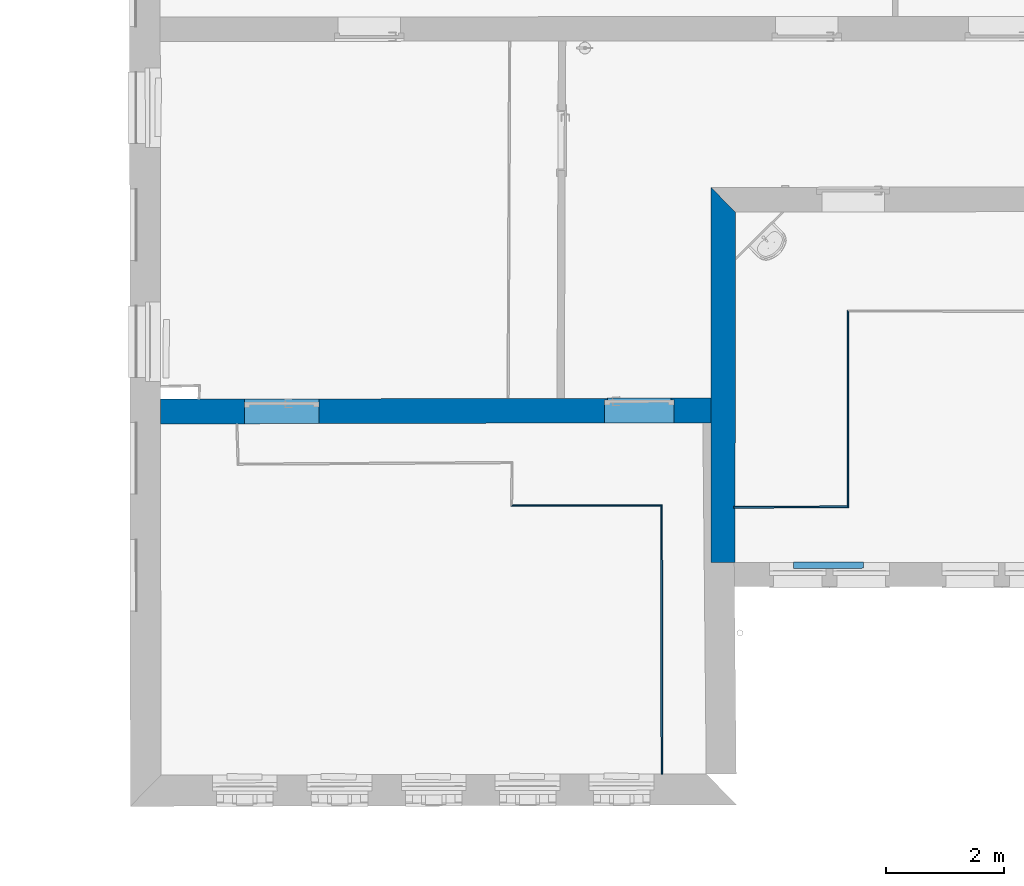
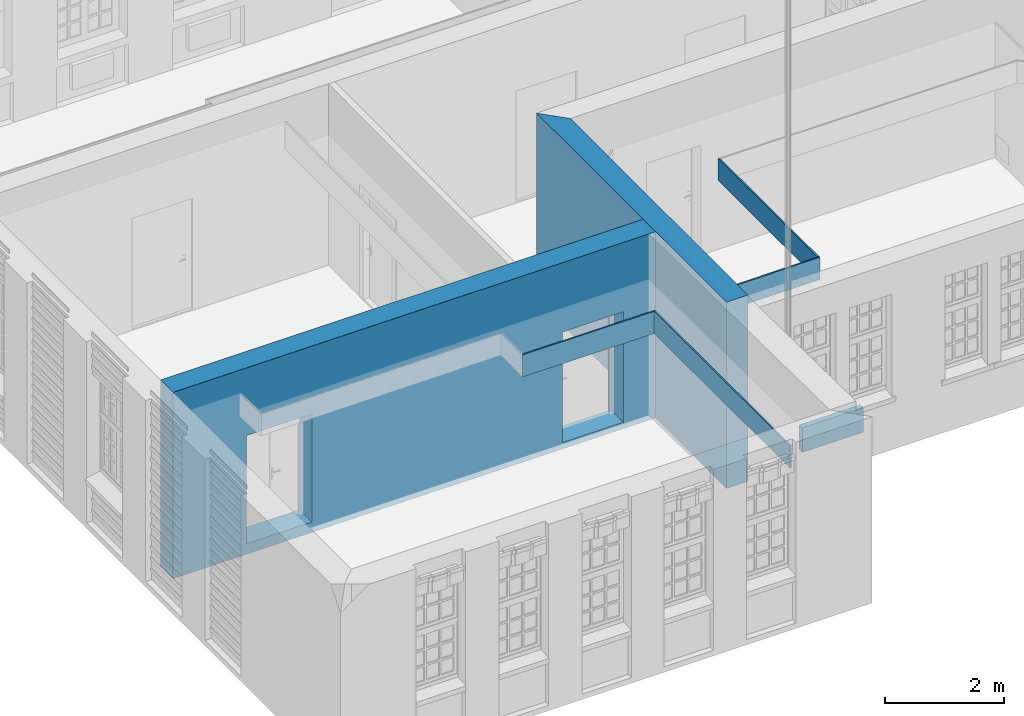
# One storey, part 18 of 158: 7 walls, 2 openings.
"""IFC2X3 building model written with IfcOpenShell, lengths in metres."""

from ifc_helpers import new_model, entity, si_unit, converted_unit, derived_unit, money_unit, direction, frame, origin_with_axes, origin_2d_with_axis, place, context, subcontext, project, spatial, polyline, rectangle, outline, extrude, material, layer, layer_set, layer_usage, type_object, element, save


model = new_model("IFC2X3")

# Units and contexts
model_context = context("Model", 3, precision=1e-05, world=origin_with_axes(), true_north=direction((0.0, 1.0)))
body_context = subcontext(model_context, "Body", "Model", "MODEL_VIEW")
ifc_project = project(units=[si_unit("LENGTHUNIT", "METRE"), si_unit("AREAUNIT", "SQUARE_METRE"), si_unit("VOLUMEUNIT", "CUBIC_METRE"), converted_unit("PLANEANGLEUNIT", "DEGREE", entity("IfcPlaneAngleMeasure", 0.0174532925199), si_unit("PLANEANGLEUNIT", "RADIAN"), dimensions=[0, 0, 0, 0, 0, 0, 0]), money_unit("EUR"), converted_unit("TIMEUNIT", "Year", entity("IfcTimeMeasure", 31556926.0), si_unit("TIMEUNIT", "SECOND"), dimensions=[0, 0, 1, 0, 0, 0, 0]), si_unit("MASSUNIT", "GRAM", prefix="KILO"), si_unit("THERMODYNAMICTEMPERATUREUNIT", "DEGREE_CELSIUS"), si_unit("LUMINOUSINTENSITYUNIT", "LUMEN"), si_unit("ENERGYUNIT", "JOULE", prefix="MEGA"), derived_unit("THERMALCONDUCTANCEUNIT", [(si_unit("POWERUNIT", "WATT"), 1), (si_unit("LENGTHUNIT", "METRE"), -1), (si_unit("THERMODYNAMICTEMPERATUREUNIT", "KELVIN"), -1)]), derived_unit("SPECIFICHEATCAPACITYUNIT", [(si_unit("ENERGYUNIT", "JOULE"), 1), (si_unit("MASSUNIT", "GRAM", prefix="KILO"), -1), (si_unit("THERMODYNAMICTEMPERATUREUNIT", "KELVIN"), -1)]), derived_unit("MASSDENSITYUNIT", [(si_unit("MASSUNIT", "GRAM", prefix="KILO"), 1), (si_unit("VOLUMEUNIT", "CUBIC_METRE"), -1)])], contexts=[model_context])

# Site, building, storey
site_placement = place(None, origin_with_axes())
site = spatial("IfcSite", under=ifc_project, at=site_placement, Name="Gelände", CompositionType="ELEMENT")
building_placement = place(site_placement, origin_with_axes())
building = spatial("IfcBuilding", under=site, at=building_placement, Name="Gebäude", CompositionType="ELEMENT")
storey_placement = place(building_placement, origin_with_axes())
storey = spatial("IfcBuildingStorey", under=building, at=storey_placement, Name="ERDGESCHOSS", CompositionType="ELEMENT", Elevation=0.0)

# Wall, openings
ifc_material_1 = material(Name="05_ALLGEMEIN - TRAGENDE BAUTEILE")
ifc_layer_1 = layer(ifc_material_1, 0.42, ventilated="UNKNOWN")
ifc_layer_set_1 = layer_set([ifc_layer_1], Name="05_ALLGEMEIN - TRAGENDE BAUTEILE 0.42")
ifc_layer_usage_1 = layer_usage(ifc_layer_set_1, "AXIS2", "NEGATIVE", 0.42)
wall_type_1 = type_object("IfcWallType", Name="05_ALLGEMEIN - TRAGENDE BAUTEILE 420", PredefinedType="ELEMENTEDWALL")
wall_1_placement = place(storey_placement, frame((-17.7771544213, 13.195106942, -0.21), z_axis=(0.0, 0.0, 1.0), x_axis=(-0.999997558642, -0.00220968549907, 0.0)))
wall_1 = element("IfcWallStandardCase", 1, at=wall_1_placement, inside=storey, type_object=wall_type_1, material=ifc_layer_usage_1, Name="Wand-036", ObjectType="ELEMENTEDWALL", context=body_context, shape_type="SweptSolid", body=[
    extrude(outline(polyline([(0.414617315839, 0.0), (9.75958256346, 0.0), (9.76011828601, 0.42), (0.41584293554, 0.42), (0.414617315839, 0.0)])), origin_with_axes(), (0.0, 0.0, 1.0), 3.81),
])
opening_1_placement = place(wall_1_placement, frame((1.63089468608, 0.0, 0.133355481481), z_axis=(0.0, 0.0, 1.0), x_axis=(1.0, 0.0, 0.0)))
element("IfcOpeningElement", 2, at=opening_1_placement, cuts=wall_1, Name="Tür-023", context=body_context, shape_type="SweptSolid", body=[
    extrude(rectangle(XDim=1.17438939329, YDim=2.257862, at=origin_2d_with_axis()), frame((0.0, 0.0279724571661, 1.128931), z_axis=(0.0, -1.0, 0.0), x_axis=(-1.0, 0.0, 0.0)), (0.0, 0.0, -1.0), 0.812027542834),
    extrude(rectangle(XDim=1.07438939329, YDim=2.207862, at=origin_2d_with_axis()), frame((0.0, 0.0279724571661, 1.103931), z_axis=(0.0, 1.0, 0.0), x_axis=(-1.0, 0.0, 0.0)), (0.0, 0.0, -1.0), 0.447972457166),
])
opening_2_placement = place(wall_1_placement, frame((7.70327770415, 0.0, 0.210293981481), z_axis=(0.0, 0.0, 1.0), x_axis=(1.0, 0.0, 0.0)))
element("IfcOpeningElement", 3, at=opening_2_placement, cuts=wall_1, Name="Tür-023", context=body_context, shape_type="SweptSolid", body=[
    extrude(rectangle(XDim=1.26631133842, YDim=2.212845, at=origin_2d_with_axis()), frame((0.0, 0.05, 1.1064225), z_axis=(0.0, -1.0, 0.0), x_axis=(-1.0, 0.0, 0.0)), (0.0, 0.0, -1.0), 0.79),
    extrude(rectangle(XDim=1.26631133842, YDim=2.212845, at=origin_2d_with_axis()), frame((0.0, 0.05, 1.1064225), z_axis=(0.0, 1.0, 0.0), x_axis=(-1.0, 0.0, 0.0)), (0.0, 0.0, -1.0), 0.47),
])

# Walls
ifc_material_2 = material(Name="43_Gipskarton")
ifc_layer_2 = layer(ifc_material_2, 0.03, ventilated="UNKNOWN")
ifc_layer_set_2 = layer_set([ifc_layer_2], Name="43_Gipskarton 0.03")
ifc_layer_usage_2 = layer_usage(ifc_layer_set_2, "AXIS2", "NEGATIVE", 0.03)
wall_type_2 = type_object("IfcWallType", Name="43_Gipskarton 30", PredefinedType="ELEMENTEDWALL")
wall_2_placement = place(storey_placement, frame((-21.5919382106, 11.3547129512, 2.68), z_axis=(0.0, 0.0, 1.0), x_axis=(0.99999987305, -0.000503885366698, 0.0)))
element("IfcWallStandardCase", 4, at=wall_2_placement, inside=storey, type_object=wall_type_2, material=ifc_layer_usage_2, Name="Wand-040", ObjectType="ELEMENTEDWALL", context=body_context, shape_type="SweptSolid", body=[
    extrude(outline(polyline([(0.0, 0.0), (2.5474493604, 0.0), (2.57738906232, 0.03), (0.0303684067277, 0.03), (0.0, 0.0)])), origin_with_axes(), (0.0, 0.0, 1.0), 0.45),
])
ifc_layer_usage_3 = layer_usage(ifc_layer_set_2, "AXIS2", "NEGATIVE", 0.03)
wall_3_placement = place(storey_placement, frame((-17.8042904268, 11.323041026, 2.675), z_axis=(0.0, 0.0, 1.0), x_axis=(0.999986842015, 0.0051298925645, 0.0)))
element("IfcWallStandardCase", 5, at=wall_3_placement, inside=storey, type_object=wall_type_2, material=ifc_layer_usage_3, Name="Wand-041", ObjectType="ELEMENTEDWALL", context=body_context, shape_type="SweptSolid", body=[
    extrude(outline(polyline([(0.0, 0.0), (1.9553915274, 0.0), (1.92553584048, 0.03), (-0.000137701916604, 0.03), (0.0, 0.0)])), origin_with_axes(), (0.0, 0.0, 1.0), 0.455),
])
ifc_layer_usage_4 = layer_usage(ifc_layer_set_2, "AXIS2", "NEGATIVE", 0.03)
wall_4_placement = place(storey_placement, frame((-19.0444891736, 11.3534293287, 2.68), z_axis=(0.0, 0.0, 1.0), x_axis=(0.00150807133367, -0.99999886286, 0.0)))
element("IfcWallStandardCase", 6, at=wall_4_placement, inside=storey, type_object=wall_type_2, material=ifc_layer_usage_4, Name="Wand-041", ObjectType="ELEMENTEDWALL", context=body_context, shape_type="SweptSolid", body=[
    extrude(outline(polyline([(0.0, 0.0), (4.5440797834, 0.0), (4.54406120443, 0.03), (-0.0299397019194, 0.03), (0.0, 0.0)])), origin_with_axes(), (0.0, 0.0, 1.0), 0.45),
])
ifc_layer_usage_5 = layer_usage(ifc_layer_set_2, "AXIS2", "NEGATIVE", 0.03)
wall_5_placement = place(storey_placement, frame((-15.8489246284, 11.3330719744, 2.675), z_axis=(0.0, 0.0, 1.0), x_axis=(-0.00030789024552, 0.999999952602, 0.0)))
element("IfcWallStandardCase", 7, at=wall_5_placement, inside=storey, type_object=wall_type_2, material=ifc_layer_usage_5, Name="Wand-042", ObjectType="ELEMENTEDWALL", context=body_context, shape_type="SweptSolid", body=[
    extrude(outline(polyline([(0.0, 0.0), (3.32450155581, 0.0), (3.35455994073, 0.03), (0.0298556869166, 0.03), (0.0, 0.0)])), origin_with_axes(), (0.0, 0.0, 1.0), 0.455),
])
ifc_material_3 = material(Name="01_ALLGEMEIN - BAUTEIL")
ifc_layer_3 = layer(ifc_material_3, 0.105, ventilated="UNKNOWN")
ifc_layer_set_3 = layer_set([ifc_layer_3], Name="01_ALLGEMEIN - BAUTEIL 0.105")
ifc_layer_usage_6 = layer_usage(ifc_layer_set_3, "AXIS2", "NEGATIVE", 0.105)
wall_type_3 = type_object("IfcWallType", Name="01_ALLGEMEIN - BAUTEIL 105", PredefinedType="ELEMENTEDWALL")
wall_6_placement = place(storey_placement, frame((-15.6012478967, 10.408473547, 0.0935706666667), z_axis=(0.0, 0.0, 1.0), x_axis=(-0.99999742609, -0.00226887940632, 0.0)))
element("IfcWallStandardCase", 8, at=wall_6_placement, inside=storey, type_object=wall_type_3, material=ifc_layer_usage_6, Name="Wand-038", ObjectType="ELEMENTEDWALL", context=body_context, shape_type="SweptSolid", body=[
    extrude(outline(polyline([(0.0, 0.0), (1.18406103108, 0.0), (1.18406103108, 0.105), (0.0, 0.105), (0.0, 0.0)])), origin_with_axes(), (0.0, 0.0, 1.0), 0.501014),
])
ifc_layer_4 = layer(ifc_material_1, 0.414615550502, ventilated="UNKNOWN")
ifc_layer_set_4 = layer_set([ifc_layer_4], Name="05_ALLGEMEIN - TRAGENDE BAUTEILE 0.414616")
ifc_layer_usage_7 = layer_usage(ifc_layer_set_4, "AXIS2", "NEGATIVE", 0.0)
wall_type_4 = type_object("IfcWallType", Name="05_ALLGEMEIN - TRAGENDE BAUTEILE 415", PredefinedType="ELEMENTEDWALL")
wall_7_placement = place(storey_placement, frame((-17.7746208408, 16.7713541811, -0.21), z_axis=(0.0, 0.0, 1.0), x_axis=(-0.000708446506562, -0.999999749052, 0.0)))
element("IfcWallStandardCase", 9, at=wall_7_placement, inside=storey, type_object=wall_type_4, material=ifc_layer_usage_7, Name="Wand-039", ObjectType="ELEMENTEDWALL", context=body_context, shape_type="SweptSolid", body=[
    extrude(outline(polyline([(0.000905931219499, -0.414615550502), (6.37270696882, -0.414615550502), (6.37238203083, 0.0), (0.420001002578, 0.0), (0.000905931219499, -0.414615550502)])), origin_with_axes(), (0.0, 0.0, 1.0), 3.81),
])

save(model, "model.ifc")
